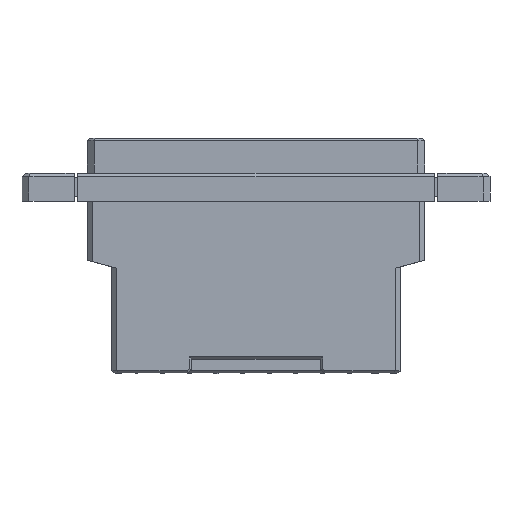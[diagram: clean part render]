
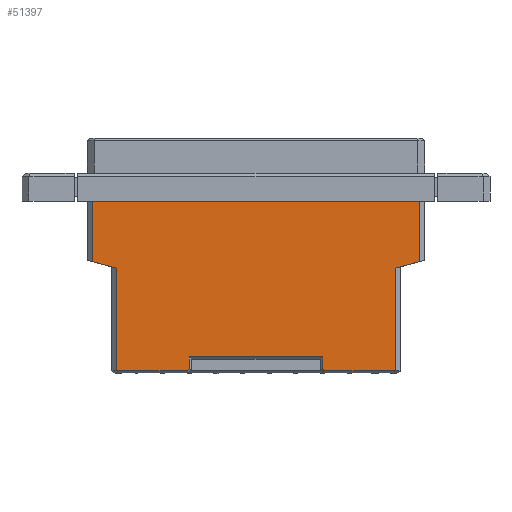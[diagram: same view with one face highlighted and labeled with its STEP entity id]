
A CAD part, front view. The second image highlights one B-rep face of the part: STEP entity #51397.
In plain terms, the highlighted planar face has unit normal (0, -1, 0).
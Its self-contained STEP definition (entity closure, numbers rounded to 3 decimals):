
#386 = CARTESIAN_POINT ( 'NONE',  ( 24.145, -7.215, -33.3 ) ) ;
#1607 = EDGE_CURVE ( 'NONE', #63885, #41368, #37157, .T. ) ;
#2968 = VECTOR ( 'NONE', #25318, 1000. ) ;
#3161 = CARTESIAN_POINT ( 'NONE',  ( -9.525, -7.215, -31.3 ) ) ;
#3698 = LINE ( 'NONE', #60897, #11174 ) ;
#4215 = CARTESIAN_POINT ( 'NONE',  ( -9.437, -7.215, -32.888 ) ) ;
#4657 = EDGE_CURVE ( 'NONE', #35031, #63885, #67566, .T. ) ;
#5141 = DIRECTION ( 'NONE',  ( 1., 0., 0. ) ) ;
#5240 = VECTOR ( 'NONE', #7124, 1000. ) ;
#5363 = LINE ( 'NONE', #14966, #65331 ) ;
#6004 = CARTESIAN_POINT ( 'NONE',  ( 9.525, -7.215, -32.976 ) ) ;
#6985 = ORIENTED_EDGE ( 'NONE', *, *, #65833, .T. ) ;
#7124 = DIRECTION ( 'NONE',  ( 0., 0., -1. ) ) ;
#7914 = EDGE_CURVE ( 'NONE', #41368, #46842, #3698, .T. ) ;
#7980 = PLANE ( 'NONE',  #12542 ) ;
#9386 = CARTESIAN_POINT ( 'NONE',  ( 23.445, -7.215, -17.65 ) ) ;
#10325 = VERTEX_POINT ( 'NONE', #35546 ) ;
#10340 = CARTESIAN_POINT ( 'NONE',  ( 9.849, -7.215, -33.3 ) ) ;
#11174 = VECTOR ( 'NONE', #42996, 1000. ) ;
#11182 = FACE_OUTER_BOUND ( 'NONE', #24275, .T. ) ;
#11195 = CARTESIAN_POINT ( 'NONE',  ( 23.445, -7.215, -9. ) ) ;
#11252 = ORIENTED_EDGE ( 'NONE', *, *, #4657, .T. ) ;
#11325 = VECTOR ( 'NONE', #29324, 1000. ) ;
#11523 = CARTESIAN_POINT ( 'NONE',  ( 20.645, -7.215, -18.4 ) ) ;
#11900 = DIRECTION ( 'NONE',  ( 0., 0., -1. ) ) ;
#11912 = CARTESIAN_POINT ( 'NONE',  ( -19.945, -7.215, -18.588 ) ) ;
#11926 = LINE ( 'NONE', #39781, #37791 ) ;
#12061 = CARTESIAN_POINT ( 'NONE',  ( -9.525, -7.215, -18.4 ) ) ;
#12278 = CARTESIAN_POINT ( 'NONE',  ( 24.145, -7.215, -31.3 ) ) ;
#12542 = AXIS2_PLACEMENT_3D ( 'NONE', #61005, #34773, #23323 ) ;
#14541 = ORIENTED_EDGE ( 'NONE', *, *, #7914, .T. ) ;
#14694 = LINE ( 'NONE', #55338, #11325 ) ;
#14966 = CARTESIAN_POINT ( 'NONE',  ( -20.645, -7.215, -18.4 ) ) ;
#18474 = LINE ( 'NONE', #12061, #45123 ) ;
#19293 = VECTOR ( 'NONE', #23446, 1000. ) ;
#19307 = ORIENTED_EDGE ( 'NONE', *, *, #66015, .T. ) ;
#21186 = EDGE_CURVE ( 'NONE', #32521, #59758, #11926, .T. ) ;
#21544 = VECTOR ( 'NONE', #37852, 1000. ) ;
#21999 = EDGE_CURVE ( 'NONE', #40014, #38928, #61773, .T. ) ;
#22592 = CARTESIAN_POINT ( 'NONE',  ( 9.525, -7.215, -31.3 ) ) ;
#22702 = DIRECTION ( 'NONE',  ( 1., 0., 0. ) ) ;
#22728 = DIRECTION ( 'NONE',  ( 0., 0., 1. ) ) ;
#22771 = VERTEX_POINT ( 'NONE', #3161 ) ;
#23323 = DIRECTION ( 'NONE',  ( -1., 0., 0. ) ) ;
#23446 = DIRECTION ( 'NONE',  ( 0.707, 0., -0.707 ) ) ;
#23540 = EDGE_CURVE ( 'NONE', #48266, #64050, #5363, .T. ) ;
#24275 = EDGE_LOOP ( 'NONE', ( #55245, #19307, #26823, #41155, #53704, #56036, #11252, #45315, #14541, #56145, #32780, #32049, #6985, #27803 ) ) ;
#24455 = EDGE_CURVE ( 'NONE', #59843, #35031, #26072, .T. ) ;
#25096 = CARTESIAN_POINT ( 'NONE',  ( -19.945, -7.215, -18.4 ) ) ;
#25318 = DIRECTION ( 'NONE',  ( 0., 0., -1. ) ) ;
#26014 = CARTESIAN_POINT ( 'NONE',  ( -23.445, -7.215, -9. ) ) ;
#26072 = LINE ( 'NONE', #44586, #5240 ) ;
#26823 = ORIENTED_EDGE ( 'NONE', *, *, #21999, .T. ) ;
#27803 = ORIENTED_EDGE ( 'NONE', *, *, #23540, .F. ) ;
#28272 = EDGE_CURVE ( 'NONE', #49469, #46842, #68256, .T. ) ;
#29324 = DIRECTION ( 'NONE',  ( 1., 0., 0. ) ) ;
#29886 = LINE ( 'NONE', #57129, #66539 ) ;
#30494 = VECTOR ( 'NONE', #11900, 1000. ) ;
#31163 = LINE ( 'NONE', #12278, #48660 ) ;
#31829 = CARTESIAN_POINT ( 'NONE',  ( -9.525, -7.215, -32.976 ) ) ;
#32049 = ORIENTED_EDGE ( 'NONE', *, *, #21186, .T. ) ;
#32521 = VERTEX_POINT ( 'NONE', #11195 ) ;
#32780 = ORIENTED_EDGE ( 'NONE', *, *, #45417, .T. ) ;
#33968 = CARTESIAN_POINT ( 'NONE',  ( 9.937, -7.215, -33.388 ) ) ;
#34773 = DIRECTION ( 'NONE',  ( 0., 1., 0. ) ) ;
#35031 = VERTEX_POINT ( 'NONE', #6004 ) ;
#35546 = CARTESIAN_POINT ( 'NONE',  ( -19.945, -7.215, -33.3 ) ) ;
#37157 = LINE ( 'NONE', #386, #46272 ) ;
#37791 = VECTOR ( 'NONE', #49530, 1000. ) ;
#37811 = CARTESIAN_POINT ( 'NONE',  ( -23.445, -7.215, -17.65 ) ) ;
#37852 = DIRECTION ( 'NONE',  ( -0.966, 0., -0.259 ) ) ;
#38226 = CARTESIAN_POINT ( 'NONE',  ( 19.945, -7.215, -18.588 ) ) ;
#38900 = CARTESIAN_POINT ( 'NONE',  ( -9.849, -7.215, -33.3 ) ) ;
#38928 = VERTEX_POINT ( 'NONE', #31829 ) ;
#39781 = CARTESIAN_POINT ( 'NONE',  ( 24.145, -7.215, -9. ) ) ;
#40014 = VERTEX_POINT ( 'NONE', #38900 ) ;
#41155 = ORIENTED_EDGE ( 'NONE', *, *, #54180, .T. ) ;
#41368 = VERTEX_POINT ( 'NONE', #49033 ) ;
#42996 = DIRECTION ( 'NONE',  ( 0., 0., 1. ) ) ;
#43774 = LINE ( 'NONE', #25096, #2968 ) ;
#44586 = CARTESIAN_POINT ( 'NONE',  ( 9.525, -7.215, -18.4 ) ) ;
#45123 = VECTOR ( 'NONE', #22728, 1000. ) ;
#45315 = ORIENTED_EDGE ( 'NONE', *, *, #1607, .T. ) ;
#45417 = EDGE_CURVE ( 'NONE', #49469, #32521, #29886, .T. ) ;
#46272 = VECTOR ( 'NONE', #22702, 1000. ) ;
#46477 = DIRECTION ( 'NONE',  ( 0., 0., 1. ) ) ;
#46842 = VERTEX_POINT ( 'NONE', #38226 ) ;
#48266 = VERTEX_POINT ( 'NONE', #11912 ) ;
#48660 = VECTOR ( 'NONE', #5141, 1000. ) ;
#49033 = CARTESIAN_POINT ( 'NONE',  ( 19.945, -7.215, -33.3 ) ) ;
#49469 = VERTEX_POINT ( 'NONE', #9386 ) ;
#49530 = DIRECTION ( 'NONE',  ( -1., 0., 0. ) ) ;
#51397 = ADVANCED_FACE ( 'NONE', ( #11182 ), #7980, .F. ) ;
#53704 = ORIENTED_EDGE ( 'NONE', *, *, #67169, .T. ) ;
#53737 = DIRECTION ( 'NONE',  ( -0.966, 0., 0.259 ) ) ;
#54180 = EDGE_CURVE ( 'NONE', #38928, #22771, #18474, .T. ) ;
#55073 = VECTOR ( 'NONE', #63523, 1000. ) ;
#55245 = ORIENTED_EDGE ( 'NONE', *, *, #66112, .T. ) ;
#55338 = CARTESIAN_POINT ( 'NONE',  ( 24.145, -7.215, -33.3 ) ) ;
#55397 = LINE ( 'NONE', #65618, #30494 ) ;
#56036 = ORIENTED_EDGE ( 'NONE', *, *, #24455, .T. ) ;
#56145 = ORIENTED_EDGE ( 'NONE', *, *, #28272, .F. ) ;
#57129 = CARTESIAN_POINT ( 'NONE',  ( 23.445, -7.215, -18.4 ) ) ;
#59758 = VERTEX_POINT ( 'NONE', #26014 ) ;
#59843 = VERTEX_POINT ( 'NONE', #22592 ) ;
#60897 = CARTESIAN_POINT ( 'NONE',  ( 19.945, -7.215, -18.4 ) ) ;
#61005 = CARTESIAN_POINT ( 'NONE',  ( 24.145, -7.215, -18.4 ) ) ;
#61773 = LINE ( 'NONE', #4215, #55073 ) ;
#63523 = DIRECTION ( 'NONE',  ( 0.707, 0., 0.707 ) ) ;
#63885 = VERTEX_POINT ( 'NONE', #10340 ) ;
#64050 = VERTEX_POINT ( 'NONE', #37811 ) ;
#65331 = VECTOR ( 'NONE', #53737, 1000. ) ;
#65618 = CARTESIAN_POINT ( 'NONE',  ( -23.445, -7.215, -18.4 ) ) ;
#65833 = EDGE_CURVE ( 'NONE', #59758, #64050, #55397, .T. ) ;
#66015 = EDGE_CURVE ( 'NONE', #10325, #40014, #14694, .T. ) ;
#66112 = EDGE_CURVE ( 'NONE', #48266, #10325, #43774, .T. ) ;
#66539 = VECTOR ( 'NONE', #46477, 1000. ) ;
#67169 = EDGE_CURVE ( 'NONE', #22771, #59843, #31163, .T. ) ;
#67566 = LINE ( 'NONE', #33968, #19293 ) ;
#68256 = LINE ( 'NONE', #11523, #21544 ) ;
